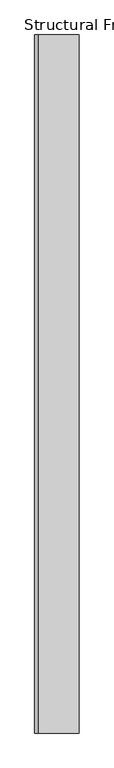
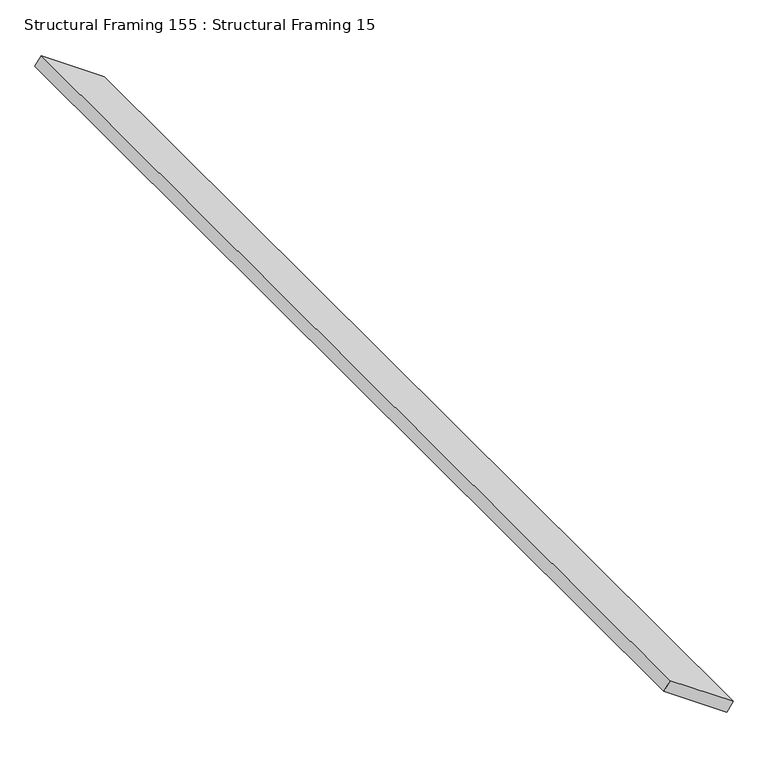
"""IFC4 building model written with IfcOpenShell, lengths in millimetres: beam geometry, Structural Framing 155 : Structural Framing 15."""

import ifcopenshell
import ifcopenshell.guid

model = None  # the IFC model being written
_history = None  # IfcOwnerHistory: only IFC2X3 demands one
_inside = {}  # id of a spatial element -> (the spatial element, [elements in it])
_under = {}  # id of a project, library or spatial element -> (it, [spatial elements below it])
_declared = {}  # id of a project -> (the project, [libraries it declares])
_typed = {}  # id of a type object -> (the type object, [elements of that type])
_made_of = {}  # id of a material, layer set ... -> (it, [elements and type objects made of it])


def new_model(schema):
    """Start an empty IFC model of exactly this schema.

    Asked for "IFC4X3", IfcOpenShell would pick the latest addendum, in which some entities
    have other attributes; the version numbers below select the first issue.
    IFC2X3 requires an IfcOwnerHistory on every rooted entity: one is made here for all.
    """
    global model, _history
    if schema == "IFC4X3":
        model = ifcopenshell.file(schema_version=(4, 3, 0, 0))
    else:
        model = ifcopenshell.file(schema=schema)
    _inside.clear()
    _under.clear()
    _declared.clear()
    _typed.clear()
    _made_of.clear()
    _history = None
    if model.schema == "IFC2X3":
        org = make("IfcOrganization", Name="unknown")
        user = make(
            "IfcPersonAndOrganization",
            ThePerson=make("IfcPerson", FamilyName="unknown"),
            TheOrganization=org,
        )
        app = make(
            "IfcApplication",
            ApplicationDeveloper=org,
            Version="unknown",
            ApplicationFullName="unknown",
            ApplicationIdentifier="unknown",
        )
        _history = make(
            "IfcOwnerHistory",
            OwningUser=user,
            OwningApplication=app,
            ChangeAction="ADDED",
            CreationDate=0,
        )
    return model


def make(cls, **values):
    """One entity of the class cls with the attributes given. An attribute that is None is left unset."""
    return model.create_entity(
        cls, **{name: value for name, value in values.items() if value is not None}
    )


def rooted(cls, **values):
    """An entity with a GlobalId (a new one), such as an element, a storey or a relation."""
    return make(cls, GlobalId=ifcopenshell.guid.new(), OwnerHistory=_history, **values)


def si_unit(unit_type, name, prefix=None):
    """IfcSIUnit, for example si_unit("LENGTHUNIT", "METRE", prefix="MILLI")."""
    return make("IfcSIUnit", UnitType=unit_type, Prefix=prefix, Name=name)


def assignment(units):
    """IfcUnitAssignment: the units of a project."""
    return None if units is None else make("IfcUnitAssignment", Units=units)


def point(xyz):
    """IfcCartesianPoint."""
    return None if xyz is None else make("IfcCartesianPoint", Coordinates=xyz)


def direction(xyz):
    """IfcDirection."""
    return None if xyz is None else make("IfcDirection", DirectionRatios=xyz)


def frame(location, z_axis=None, x_axis=None):
    """IfcAxis2Placement3D, a coordinate frame: its origin and axes. An axis left out is left unset."""
    return make(
        "IfcAxis2Placement3D",
        Location=point(location),
        Axis=direction(z_axis),
        RefDirection=direction(x_axis),
    )


def origin():
    """The frame at (0, 0, 0) with its axes left unset."""
    return frame((0.0, 0.0, 0.0))


def place(relative_to, where):
    """IfcLocalPlacement: puts the frame where relative to a parent placement (None: the world)."""
    return make(
        "IfcLocalPlacement", PlacementRelTo=relative_to, RelativePlacement=where
    )


def context(
    kind, dimensions, precision=None, world=None, true_north=None, identifier=None
):
    """IfcGeometricRepresentationContext, for example the 3D "Model" context."""
    return make(
        "IfcGeometricRepresentationContext",
        ContextIdentifier=identifier,
        ContextType=kind,
        CoordinateSpaceDimension=dimensions,
        Precision=precision,
        WorldCoordinateSystem=world,
        TrueNorth=true_north,
    )


def project(units=None, contexts=None):
    """IfcProject with its units and contexts."""
    return rooted(
        "IfcProject",
        Name="project",
        RepresentationContexts=contexts,
        UnitsInContext=assignment(units),
    )


def spatial(cls, under=None, at=None, **own):
    """A site, building, storey or space (cls), placed at a placement, below another one or the project."""
    s = rooted(cls, ObjectPlacement=at, **own)
    if under is not None:
        _under.setdefault(under.id(), (under, []))[1].append(s)
    return s


def polyline(points):
    """IfcPolyline through the points."""
    return make("IfcPolyline", Points=[point(p) for p in points])


def outline(outer, holes=None, kind="AREA"):
    """IfcArbitraryClosedProfileDef: a profile drawn as a closed curve; with holes, ...WithVoids."""
    if holes is None:
        return make("IfcArbitraryClosedProfileDef", ProfileType=kind, OuterCurve=outer)
    return make(
        "IfcArbitraryProfileDefWithVoids",
        ProfileType=kind,
        OuterCurve=outer,
        InnerCurves=holes,
    )


def extrude(swept, where, along, depth):
    """IfcExtrudedAreaSolid: the profile swept, set in the frame where, extruded along a direction by depth."""
    return make(
        "IfcExtrudedAreaSolid",
        SweptArea=swept,
        Position=where,
        ExtrudedDirection=direction(along),
        Depth=depth,
    )


def shape(context_of_items, identifier, shape_type, items):
    """IfcShapeRepresentation: the items that make up one representation, for example the "Body"."""
    return make(
        "IfcShapeRepresentation",
        ContextOfItems=context_of_items,
        RepresentationIdentifier=identifier,
        RepresentationType=shape_type,
        Items=items,
    )


def source(mapping_origin, context_of_items, identifier, shape_type, items):
    """IfcRepresentationMap: a shape defined once, which mapped items show again and again."""
    return make(
        "IfcRepresentationMap",
        MappingOrigin=mapping_origin,
        MappedRepresentation=shape(context_of_items, identifier, shape_type, items),
    )


def transform(
    local_origin,
    x_axis=None,
    y_axis=None,
    z_axis=None,
    scale=None,
    scale2=None,
    scale3=None,
    uniform=True,
):
    """IfcCartesianTransformationOperator3D, or its non-uniform kind. x_axis, y_axis, z_axis: its Axis1, 2, 3."""
    if uniform:
        return make(
            "IfcCartesianTransformationOperator3D",
            Axis1=direction(x_axis),
            Axis2=direction(y_axis),
            LocalOrigin=point(local_origin),
            Scale=scale,
            Axis3=direction(z_axis),
        )
    return make(
        "IfcCartesianTransformationOperator3DnonUniform",
        Axis1=direction(x_axis),
        Axis2=direction(y_axis),
        LocalOrigin=point(local_origin),
        Scale=scale,
        Axis3=direction(z_axis),
        Scale2=scale2,
        Scale3=scale3,
    )


def mapped(mapping_source, mapping_target):
    """IfcMappedItem: shows the shape of a source again, moved by a transform."""
    return make(
        "IfcMappedItem", MappingSource=mapping_source, MappingTarget=mapping_target
    )


def made_of(thing, what):
    """Note that an element or type object is made of a material, layer set ...; save() writes the relation."""
    if what is not None:
        _made_of.setdefault(what.id(), (what, []))[1].append(thing)
    return thing


def element(
    cls,
    number,
    at=None,
    inside=None,
    cuts=None,
    type_object=None,
    material=None,
    context=None,
    identifier="Body",
    shape_type=None,
    held_by="IfcProductDefinitionShape",
    body=None,
    shapes=None,
    **own,
):
    """One element of the class cls, such as IfcWall. Its Tag is "e" and its number.

    at: its placement. inside: the storey or other place that contains it. cuts: it is an
    opening in that element (IfcRelVoidsElement). A single representation is given by context,
    identifier, shape_type and body (its items); several are given by shapes. held_by: the class
    of the entity that holds the representations. save() writes the other relations.
    """
    e = rooted(cls, Tag="e%d" % number, ObjectPlacement=at, **own)
    if body is not None:
        shapes = [shape(context, identifier, shape_type, body)]
    if shapes is not None:
        e.Representation = make(held_by, Representations=shapes)
    if inside is not None:
        _inside.setdefault(inside.id(), (inside, []))[1].append(e)
    if cuts is not None:
        rooted(
            "IfcRelVoidsElement", RelatingBuildingElement=cuts, RelatedOpeningElement=e
        )
    if type_object is not None:
        _typed.setdefault(type_object.id(), (type_object, []))[1].append(e)
    return made_of(e, material)


def aggregate(whole, parts):
    """IfcRelAggregates: a whole, such as a stair, and the parts it consists of."""
    return rooted("IfcRelAggregates", RelatingObject=whole, RelatedObjects=parts)


def save(model, path):
    """Write the relations noted so far, then the file.

    IfcRelAggregates (storeys below a building ...), IfcRelContainedInSpatialStructure (elements
    in a storey), IfcRelDefinesByType, IfcRelAssociatesMaterial and IfcRelDeclares: one each for
    every whole, place, type object, material and project.
    """
    for whole, parts in _under.values():
        aggregate(whole, parts)
    for where, things in _inside.values():
        rooted(
            "IfcRelContainedInSpatialStructure",
            RelatedElements=things,
            RelatingStructure=where,
        )
    for kind, things in _typed.values():
        rooted("IfcRelDefinesByType", RelatedObjects=things, RelatingType=kind)
    for what, things in _made_of.values():
        rooted("IfcRelAssociatesMaterial", RelatedObjects=things, RelatingMaterial=what)
    for by, libraries in _declared.values():
        rooted("IfcRelDeclares", RelatingContext=by, RelatedDefinitions=libraries)
    model.write(path)


def structural_framing_155_structural_framing_15_fbad98d9(model_context):
    return source(origin(), model_context, "Body", "SweptSolid", [
        extrude(outline(polyline([(0.0, -174.3446795), (0.0, 0.0), (2470.0, 0.0), (2470.0, -174.3446795), (0.0, -174.3446795)])), frame((1349.5937079, 3925.5508021, 2700.0), z_axis=(0.5735764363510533, 0.0, 0.8191520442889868), x_axis=(0.0, -1.0, 0.0)), (0.0, 0.0, 1.0), 25.0),
    ])


if __name__ == "__main__":
    model = new_model("IFC4")
    model_context = context("Model", 3, world=origin())
    ifc_project = project(units=[si_unit("LENGTHUNIT", "METRE", prefix="MILLI")], contexts=[model_context])
    site = spatial("IfcSite", under=ifc_project)
    building = spatial("IfcBuilding", under=site)
    placement = place(None, origin())
    structural_framing_155_structural_framing_15_shape = structural_framing_155_structural_framing_15_fbad98d9(model_context)
    element("IfcBeam", 1, ObjectType="Structural Framing 155 : Structural Framing 15", at=placement, inside=building, context=model_context, shape_type="MappedRepresentation", body=[
        mapped(structural_framing_155_structural_framing_15_shape, transform((0.0, 0.0, 0.0), x_axis=(1.0, 0.0, 0.0), y_axis=(0.0, 1.0, 0.0), z_axis=(0.0, 0.0, 1.0))),
    ])
    save(model, "model.ifc")
